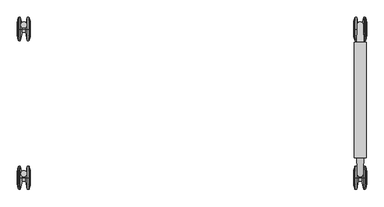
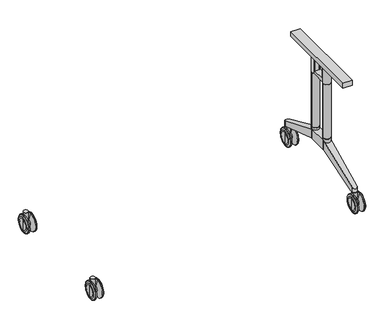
"""IFC4 building model written with IfcOpenShell, lengths in millimetres: furniture geometry."""

from ifc_helpers import new_model, si_unit, point, frame, frame_2d, origin, place, context, project, spatial, polyline, circle_curve, ellipse_curve, trimmed, segment, composite_curve, outline, extrude, source, transform, mapped, element, save
from ifc_brep_helpers import plane_surface, cylinder_surface, revolved_surface, advanced_brep


def furniture_df3bc406(model_context):
    return source(origin(), model_context, "Body", "SolidModel", [
        advanced_brep(
        [(752.500346, 204.1135107, 49.9999988), (752.500346, 204.1135107, 19.8683152), (752.500346, 204.1135107, 80.1316828), (697.5003238, 204.1135107, 19.8683152), (697.5003238, 204.1135107, 49.9999988), (697.5003238, 204.1135107, 80.1316828), (701.8165382, 204.1135107, 2.051318), (699.0398166, 204.1135107, 10.381507), (699.0398166, 204.1135107, 89.6184911), (701.8165382, 204.1135107, 97.9486801), (709.500318, 204.1135107, -1.2e-06), (704.6625889, 204.1135107, -1.2e-06), (704.6625889, 204.1135107, 99.9999992), (709.500318, 204.1135107, 99.9999992), (717.5003021, 204.1135107, 35.0000003), (717.5003021, 204.1135107, 64.9999978), (732.5003676, 204.1135107, 35.0000003), (732.5003676, 204.1135107, 64.9999978), (740.5003517, 204.1135107, -1.2e-06), (740.5003517, 204.1135107, 99.9999992), (745.3380808, 204.1135107, -1.2e-06), (745.3380808, 204.1135107, 99.9999992), (750.9608532, 204.1135107, 10.381507), (748.1841316, 204.1135107, 2.051318), (748.1841316, 204.1135107, 97.9486801), (750.9608532, 204.1135107, 89.6184911)],
        [
            (0, 1),
            (1, 2, circle_curve(frame((752.500346, 204.1135107, 49.999999), z_axis=(1.0, 0.0, 0.0), x_axis=(0.0, 0.0, 1.0)), 30.1316838)),
            (2, 0),
            (2, 1, circle_curve(frame((752.500346, 204.1135107, 49.999999), z_axis=(1.0, 0.0, 0.0), x_axis=(0.0, 0.0, 1.0)), 30.1316838)),
            (3, 4),
            (4, 5),
            (5, 3, circle_curve(frame((697.5003238, 204.1135107, 49.999999), z_axis=(-1.0, 0.0, 0.0), x_axis=(0.0, 0.0, 1.0)), 30.1316838)),
            (3, 5, circle_curve(frame((697.5003238, 204.1135107, 49.999999), z_axis=(-1.0, 0.0, 0.0), x_axis=(0.0, 0.0, 1.0)), 30.1316838)),
            (6, 7),
            (7, 8, circle_curve(frame((699.0398166, 204.1135107, 49.999999), z_axis=(1.0, 0.0, 0.0), x_axis=(0.0, 0.0, 1.0)), 39.618492)),
            (8, 9),
            (9, 6, circle_curve(frame((701.8165382, 204.1135107, 49.999999), z_axis=(-1.0, 0.0, 0.0), x_axis=(0.0, 0.0, 1.0)), 47.948681)),
            (8, 7, circle_curve(frame((699.0398166, 204.1135107, 49.999999), z_axis=(1.0, 0.0, 0.0), x_axis=(0.0, 0.0, 1.0)), 39.618492)),
            (6, 9, circle_curve(frame((701.8165382, 204.1135107, 49.999999), z_axis=(-1.0, 0.0, 0.0), x_axis=(0.0, 0.0, 1.0)), 47.948681)),
            (10, 11),
            (11, 12, circle_curve(frame((704.6625889, 204.1135107, 49.999999), z_axis=(1.0, 0.0, 0.0), x_axis=(0.0, 0.0, 1.0)), 50.0000002)),
            (12, 13),
            (13, 10, circle_curve(frame((709.500318, 204.1135107, 49.999999), z_axis=(-1.0, 0.0, 0.0), x_axis=(0.0, 0.0, 1.0)), 50.0000002)),
            (12, 11, circle_curve(frame((704.6625889, 204.1135107, 49.999999), z_axis=(1.0, 0.0, 0.0), x_axis=(0.0, 0.0, 1.0)), 50.0000002)),
            (10, 13, circle_curve(frame((709.500318, 204.1135107, 49.999999), z_axis=(-1.0, 0.0, 0.0), x_axis=(0.0, 0.0, 1.0)), 50.0000002)),
            (14, 10),
            (13, 15),
            (15, 14, circle_curve(frame((717.5003021, 204.1135107, 49.999999), z_axis=(-1.0, 0.0, 0.0), x_axis=(0.0, 0.0, 1.0)), 14.9999987)),
            (14, 15, circle_curve(frame((717.5003021, 204.1135107, 49.999999), z_axis=(-1.0, 0.0, 0.0), x_axis=(0.0, 0.0, 1.0)), 14.9999987)),
            (16, 14),
            (15, 17),
            (17, 16, circle_curve(frame((732.5003676, 204.1135107, 49.999999), z_axis=(-1.0, 0.0, 0.0), x_axis=(0.0, 0.0, 1.0)), 14.9999987)),
            (16, 17, circle_curve(frame((732.5003676, 204.1135107, 49.999999), z_axis=(-1.0, 0.0, 0.0), x_axis=(0.0, 0.0, 1.0)), 14.9999987)),
            (18, 16),
            (17, 19),
            (19, 18, circle_curve(frame((740.5003517, 204.1135107, 49.999999), z_axis=(-1.0, 0.0, 0.0), x_axis=(0.0, 0.0, 1.0)), 50.0000002)),
            (18, 19, circle_curve(frame((740.5003517, 204.1135107, 49.999999), z_axis=(-1.0, 0.0, 0.0), x_axis=(0.0, 0.0, 1.0)), 50.0000002)),
            (20, 18),
            (19, 21),
            (21, 20, circle_curve(frame((745.3380808, 204.1135107, 49.999999), z_axis=(-1.0, 0.0, 0.0), x_axis=(0.0, 0.0, 1.0)), 50.0000002)),
            (20, 21, circle_curve(frame((745.3380808, 204.1135107, 49.999999), z_axis=(-1.0, 0.0, 0.0), x_axis=(0.0, 0.0, 1.0)), 50.0000002)),
            (22, 23),
            (23, 24, circle_curve(frame((748.1841316, 204.1135107, 49.999999), z_axis=(1.0, 0.0, 0.0), x_axis=(0.0, 0.0, 1.0)), 47.948681)),
            (24, 25),
            (25, 22, circle_curve(frame((750.9608532, 204.1135107, 49.999999), z_axis=(-1.0, 0.0, 0.0), x_axis=(0.0, 0.0, 1.0)), 39.618492)),
            (24, 23, circle_curve(frame((748.1841316, 204.1135107, 49.999999), z_axis=(1.0, 0.0, 0.0), x_axis=(0.0, 0.0, 1.0)), 47.948681)),
            (22, 25, circle_curve(frame((750.9608532, 204.1135107, 49.999999), z_axis=(-1.0, 0.0, 0.0), x_axis=(0.0, 0.0, 1.0)), 39.618492)),
            (7, 3, circle_curve(frame((727.5003238, 204.1135107, 19.8683152), z_axis=(0.0, 1.0000000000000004, 0.0), x_axis=(-1.0000000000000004, 0.0, 0.0)), 30.0)),
            (5, 8, circle_curve(frame((727.5003238, 204.1135107, 80.1316828), z_axis=(0.0, 1.0000000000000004, 0.0), x_axis=(-1.0000000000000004, 0.0, 0.0)), 30.0)),
            (11, 6, circle_curve(frame((704.6625889, 204.1135107, 2.9999988), z_axis=(0.0, 1.0000000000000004, 0.0), x_axis=(-1.0000000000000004, 0.0, 0.0)), 3.0)),
            (9, 12, circle_curve(frame((704.6625889, 204.1135107, 96.9999992), z_axis=(0.0, 1.0000000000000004, 0.0), x_axis=(-1.0000000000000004, 0.0, 0.0)), 3.0)),
            (23, 20, circle_curve(frame((745.3380808, 204.1135107, 2.9999988), z_axis=(0.0, 1.0000000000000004, 0.0), x_axis=(-1.0000000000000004, 0.0, 0.0)), 3.0)),
            (21, 24, circle_curve(frame((745.3380808, 204.1135107, 96.9999992), z_axis=(0.0, 1.0000000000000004, 0.0), x_axis=(-1.0000000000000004, 0.0, 0.0)), 3.0)),
            (1, 22, circle_curve(frame((722.500346, 204.1135107, 19.8683152), z_axis=(0.0, 1.0000000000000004, 0.0), x_axis=(-1.0000000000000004, 0.0, 0.0)), 30.0)),
            (25, 2, circle_curve(frame((722.500346, 204.1135107, 80.1316828), z_axis=(0.0, 1.0000000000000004, 0.0), x_axis=(-1.0000000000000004, 0.0, 0.0)), 30.0)),
        ],
        [
            plane_surface(frame((752.500346, 204.1135107, 49.999999), z_axis=(1.0, 0.0, 0.0), x_axis=(0.0, 0.0, 1.0))),
            plane_surface(frame((697.5003238, 204.1135107, 49.999999), z_axis=(-1.0, 0.0, 0.0), x_axis=(0.0, 0.0, 1.0))),
            revolved_surface(polyline([(699.0398166, 204.1135107, 89.6184911), (701.8165382, 204.1135107, 97.9486801)]), (764.0660385, 204.1135107, 49.999999), (1.0000000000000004, 0.0, 0.0)),
            cylinder_surface(frame((764.0660385, 204.1135107, 49.999999), z_axis=(1.0000000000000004, 0.0, 0.0), x_axis=(0.0, 0.0, 1.0)), 50.0000002),
            revolved_surface(polyline([(709.500318, 204.1135107, 99.9999992), (717.5003021, 204.1135107, 64.9999978)]), (764.0660385, 204.1135107, 49.999999), (1.0000000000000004, 0.0, 0.0)),
            cylinder_surface(frame((764.0660385, 204.1135107, 49.999999), z_axis=(1.0000000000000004, 0.0, 0.0), x_axis=(0.0, 0.0, 1.0)), 14.9999987),
            revolved_surface(polyline([(732.5003676, 204.1135107, 64.9999978), (740.5003517, 204.1135107, 99.9999992)]), (764.0660385, 204.1135107, 49.999999), (1.0000000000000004, 0.0, 0.0)),
            revolved_surface(polyline([(748.1841316, 204.1135107, 97.9486801), (750.9608532, 204.1135107, 89.6184911)]), (764.0660385, 204.1135107, 49.999999), (1.0000000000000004, 0.0, 0.0)),
            revolved_surface(trimmed(ellipse_curve(frame((727.5003238, 204.1135107, 80.1316828), z_axis=(0.0, 1.0000000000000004, 0.0), x_axis=(-1.0000000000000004, 0.0, 0.0)), 30.0, 30.0), [point((697.5003238, 204.1135107, 80.1316828))], [point((699.0398166, 204.1135107, 89.6184911))], True, "CARTESIAN"), (764.0660385, 204.1135107, 49.999999), (1.0000000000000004, 0.0, 0.0)),
            revolved_surface(trimmed(ellipse_curve(frame((704.6625889, 204.1135107, 96.9999992), z_axis=(0.0, 1.0000000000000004, 0.0), x_axis=(-1.0000000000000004, 0.0, 0.0)), 3.0, 3.0), [point((701.8165382, 204.1135107, 97.9486801))], [point((704.6625889, 204.1135107, 99.9999992))], True, "CARTESIAN"), (764.0660385, 204.1135107, 49.999999), (1.0000000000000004, 0.0, 0.0)),
            revolved_surface(trimmed(ellipse_curve(frame((745.3380808, 204.1135107, 96.9999992), z_axis=(0.0, 1.0000000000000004, 0.0), x_axis=(-1.0000000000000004, 0.0, 0.0)), 3.0, 3.0), [point((745.3380808, 204.1135107, 99.9999992))], [point((748.1841316, 204.1135107, 97.9486801))], True, "CARTESIAN"), (764.0660385, 204.1135107, 49.999999), (1.0000000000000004, 0.0, 0.0)),
            revolved_surface(trimmed(ellipse_curve(frame((722.500346, 204.1135107, 80.1316828), z_axis=(0.0, 1.0000000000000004, 0.0), x_axis=(-1.0000000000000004, 0.0, 0.0)), 30.0, 30.0), [point((750.9608532, 204.1135107, 89.6184911))], [point((752.500346, 204.1135107, 80.1316828))], True, "CARTESIAN"), (764.0660385, 204.1135107, 49.999999), (1.0000000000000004, 0.0, 0.0)),
        ],
        [
            (0, [[1, 2, 3]]),
            (0, [[-3, 4, -1]]),
            (1, [[5, 6, 7]]),
            (1, [[-6, -5, 8]]),
            (2, [[9, 10, 11, 12]]),
            (2, [[-11, 13, -9, 14]]),
            (3, [[15, 16, 17, 18]]),
            (3, [[-17, 19, -15, 20]]),
            (4, [[21, -18, 22, 23]]),
            (4, [[-22, -20, -21, 24]]),
            (5, [[25, -23, 26, 27]]),
            (5, [[-26, -24, -25, 28]]),
            (6, [[29, -27, 30, 31]]),
            (6, [[-30, -28, -29, 32]]),
            (3, [[33, -31, 34, 35]]),
            (3, [[-34, -32, -33, 36]]),
            (7, [[37, 38, 39, 40]]),
            (7, [[-39, 41, -37, 42]]),
            (8, [[43, -7, 44, -10]]),
            (8, [[-44, -8, -43, -13]]),
            (9, [[45, -12, 46, -16]]),
            (9, [[-46, -14, -45, -19]]),
            (10, [[47, -35, 48, -38]]),
            (10, [[-48, -36, -47, -41]]),
            (11, [[49, -40, 50, -2]]),
            (11, [[-50, -42, -49, -4]]),
        ],
    ),
        extrude(outline(composite_curve([segment(trimmed(circle_curve(frame_2d((725.0003349, 221.5135103)), 13.1), [point((738.1003349, 221.5135103))], [point((711.9003349, 221.5135103))], False, "CARTESIAN"), True, "CONTINUOUS"), segment(trimmed(circle_curve(frame_2d((725.0003349, 221.5135103)), 13.1), [point((711.9003349, 221.5135103))], [point((738.1003349, 221.5135103))], False, "CARTESIAN"), True, "CONTINUOUS")], self_intersect=False)), frame((0.0, 0.0, 50.0), z_axis=(0.0, 0.0, 1.0), x_axis=(1.0, 0.0, 0.0)), (0.0, 0.0, 1.0), 55.0),
        advanced_brep(
        [(697.5003238, -436.9185854, 49.9999992), (697.5003238, -436.9185854, 80.1316828), (697.5003238, -436.9185854, 19.8683152), (752.500346, -436.9185854, 19.8683152), (752.500346, -436.9185854, 80.1316828), (752.500346, -436.9185854, 49.9999992), (748.1841316, -436.9185854, 2.051318), (748.1841316, -436.9185854, 97.9486801), (750.9608532, -436.9185854, 89.6184911), (750.9608532, -436.9185854, 10.381507), (740.5003517, -436.9185854, -1.2e-06), (740.5003517, -436.9185854, 99.9999992), (745.3380808, -436.9185854, 99.9999992), (745.3380808, -436.9185854, -1.2e-06), (732.5003676, -436.9185854, 35.0000003), (732.5003676, -436.9185854, 64.9999978), (717.5003021, -436.9185854, 35.0000003), (717.5003021, -436.9185854, 64.9999978), (709.500318, -436.9185854, -1.2e-06), (709.500318, -436.9185854, 99.9999992), (704.6625889, -436.9185854, -1.2e-06), (704.6625889, -436.9185854, 99.9999992), (699.0398166, -436.9185854, 10.381507), (699.0398166, -436.9185854, 89.6184911), (701.8165382, -436.9185854, 97.9486801), (701.8165382, -436.9185854, 2.051318)],
        [
            (0, 1),
            (1, 2, circle_curve(frame((697.5003238, -436.9185854, 49.999999), z_axis=(-1.0, 0.0, 0.0), x_axis=(0.0, 0.0, 1.0)), 30.1316838)),
            (2, 0),
            (2, 1, circle_curve(frame((697.5003238, -436.9185854, 49.999999), z_axis=(-1.0, 0.0, 0.0), x_axis=(0.0, 0.0, 1.0)), 30.1316838)),
            (3, 4, circle_curve(frame((752.500346, -436.9185854, 49.999999), z_axis=(1.0, 0.0, 0.0), x_axis=(0.0, 0.0, 1.0)), 30.1316838)),
            (4, 5),
            (5, 3),
            (4, 3, circle_curve(frame((752.500346, -436.9185854, 49.999999), z_axis=(1.0, 0.0, 0.0), x_axis=(0.0, 0.0, 1.0)), 30.1316838)),
            (6, 7, circle_curve(frame((748.1841316, -436.9185854, 49.999999), z_axis=(1.0, 0.0, 0.0), x_axis=(0.0, 0.0, 1.0)), 47.948681)),
            (7, 8),
            (8, 9, circle_curve(frame((750.9608532, -436.9185854, 49.999999), z_axis=(-1.0, 0.0, 0.0), x_axis=(0.0, 0.0, 1.0)), 39.618492)),
            (9, 6),
            (7, 6, circle_curve(frame((748.1841316, -436.9185854, 49.999999), z_axis=(1.0, 0.0, 0.0), x_axis=(0.0, 0.0, 1.0)), 47.948681)),
            (9, 8, circle_curve(frame((750.9608532, -436.9185854, 49.999999), z_axis=(-1.0, 0.0, 0.0), x_axis=(0.0, 0.0, 1.0)), 39.618492)),
            (10, 11, circle_curve(frame((740.5003517, -436.9185854, 49.999999), z_axis=(1.0, 0.0, 0.0), x_axis=(0.0, 0.0, 1.0)), 50.0000002)),
            (11, 12),
            (12, 13, circle_curve(frame((745.3380808, -436.9185854, 49.999999), z_axis=(-1.0, 0.0, 0.0), x_axis=(0.0, 0.0, 1.0)), 50.0000002)),
            (13, 10),
            (11, 10, circle_curve(frame((740.5003517, -436.9185854, 49.999999), z_axis=(1.0, 0.0, 0.0), x_axis=(0.0, 0.0, 1.0)), 50.0000002)),
            (13, 12, circle_curve(frame((745.3380808, -436.9185854, 49.999999), z_axis=(-1.0, 0.0, 0.0), x_axis=(0.0, 0.0, 1.0)), 50.0000002)),
            (14, 15, circle_curve(frame((732.5003676, -436.9185854, 49.999999), z_axis=(1.0, 0.0, 0.0), x_axis=(0.0, 0.0, 1.0)), 14.9999987)),
            (15, 11),
            (10, 14),
            (15, 14, circle_curve(frame((732.5003676, -436.9185854, 49.999999), z_axis=(1.0, 0.0, 0.0), x_axis=(0.0, 0.0, 1.0)), 14.9999987)),
            (16, 17, circle_curve(frame((717.5003021, -436.9185854, 49.999999), z_axis=(1.0, 0.0, 0.0), x_axis=(0.0, 0.0, 1.0)), 14.9999987)),
            (17, 15),
            (14, 16),
            (17, 16, circle_curve(frame((717.5003021, -436.9185854, 49.999999), z_axis=(1.0, 0.0, 0.0), x_axis=(0.0, 0.0, 1.0)), 14.9999987)),
            (18, 19, circle_curve(frame((709.500318, -436.9185854, 49.999999), z_axis=(1.0, 0.0, 0.0), x_axis=(0.0, 0.0, 1.0)), 50.0000002)),
            (19, 17),
            (16, 18),
            (19, 18, circle_curve(frame((709.500318, -436.9185854, 49.999999), z_axis=(1.0, 0.0, 0.0), x_axis=(0.0, 0.0, 1.0)), 50.0000002)),
            (20, 21, circle_curve(frame((704.6625889, -436.9185854, 49.999999), z_axis=(1.0, 0.0, 0.0), x_axis=(0.0, 0.0, 1.0)), 50.0000002)),
            (21, 19),
            (18, 20),
            (21, 20, circle_curve(frame((704.6625889, -436.9185854, 49.999999), z_axis=(1.0, 0.0, 0.0), x_axis=(0.0, 0.0, 1.0)), 50.0000002)),
            (22, 23, circle_curve(frame((699.0398166, -436.9185854, 49.999999), z_axis=(1.0, 0.0, 0.0), x_axis=(0.0, 0.0, 1.0)), 39.618492)),
            (23, 24),
            (24, 25, circle_curve(frame((701.8165382, -436.9185854, 49.999999), z_axis=(-1.0, 0.0, 0.0), x_axis=(0.0, 0.0, 1.0)), 47.948681)),
            (25, 22),
            (23, 22, circle_curve(frame((699.0398166, -436.9185854, 49.999999), z_axis=(1.0, 0.0, 0.0), x_axis=(0.0, 0.0, 1.0)), 39.618492)),
            (25, 24, circle_curve(frame((701.8165382, -436.9185854, 49.999999), z_axis=(-1.0, 0.0, 0.0), x_axis=(0.0, 0.0, 1.0)), 47.948681)),
            (8, 4, circle_curve(frame((722.500346, -436.9185854, 80.1316828), z_axis=(0.0, 1.0, 0.0), x_axis=(1.0, 0.0, 0.0)), 30.0)),
            (3, 9, circle_curve(frame((722.500346, -436.9185854, 19.8683152), z_axis=(0.0, 1.0, 0.0), x_axis=(1.0, 0.0, 0.0)), 30.0)),
            (12, 7, circle_curve(frame((745.3380808, -436.9185854, 96.9999992), z_axis=(0.0, 1.0, 0.0), x_axis=(1.0, 0.0, 0.0)), 3.0)),
            (6, 13, circle_curve(frame((745.3380808, -436.9185854, 2.9999988), z_axis=(0.0, 1.0, 0.0), x_axis=(1.0, 0.0, 0.0)), 3.0)),
            (24, 21, circle_curve(frame((704.6625889, -436.9185854, 96.9999992), z_axis=(0.0, 1.0, 0.0), x_axis=(1.0, 0.0, 0.0)), 3.0)),
            (20, 25, circle_curve(frame((704.6625889, -436.9185854, 2.9999988), z_axis=(0.0, 1.0, 0.0), x_axis=(1.0, 0.0, 0.0)), 3.0)),
            (1, 23, circle_curve(frame((727.5003238, -436.9185854, 80.1316828), z_axis=(0.0, 1.0, 0.0), x_axis=(1.0, 0.0, 0.0)), 30.0)),
            (22, 2, circle_curve(frame((727.5003238, -436.9185854, 19.8683152), z_axis=(0.0, 1.0, 0.0), x_axis=(1.0, 0.0, 0.0)), 30.0)),
        ],
        [
            plane_surface(frame((697.5003238, -436.9185854, 49.999999), z_axis=(-1.0, 0.0, 0.0), x_axis=(0.0, 0.0, 1.0))),
            plane_surface(frame((752.500346, -436.9185854, 49.999999), z_axis=(1.0, 0.0, 0.0), x_axis=(0.0, 0.0, 1.0))),
            revolved_surface(polyline([(750.9608532, -436.9185854, 89.6184911), (748.1841316, -436.9185854, 97.9486801)]), (685.9346312, -436.9185854, 49.999999), (-1.0, 0.0, 0.0)),
            cylinder_surface(frame((685.9346312, -436.9185854, 49.999999), z_axis=(-1.0, 0.0, 0.0), x_axis=(0.0, 0.0, 1.0)), 50.0000002),
            revolved_surface(polyline([(740.5003517, -436.9185854, 99.9999992), (732.5003676, -436.9185854, 64.9999978)]), (685.9346312, -436.9185854, 49.999999), (-1.0, 0.0, 0.0)),
            cylinder_surface(frame((685.9346312, -436.9185854, 49.999999), z_axis=(-1.0, 0.0, 0.0), x_axis=(0.0, 0.0, 1.0)), 14.9999987),
            revolved_surface(polyline([(717.5003021, -436.9185854, 64.9999978), (709.500318, -436.9185854, 99.9999992)]), (685.9346312, -436.9185854, 49.999999), (-1.0, 0.0, 0.0)),
            revolved_surface(polyline([(701.8165382, -436.9185854, 97.9486801), (699.0398166, -436.9185854, 89.6184911)]), (685.9346312, -436.9185854, 49.999999), (-1.0, 0.0, 0.0)),
            revolved_surface(trimmed(ellipse_curve(frame((722.500346, -436.9185854, 80.1316828), z_axis=(0.0, -1.0, 0.0), x_axis=(1.0, 0.0, 0.0)), 30.0, 30.0), [point((752.500346, -436.9185854, 80.1316828))], [point((750.9608532, -436.9185854, 89.6184911))], True, "CARTESIAN"), (685.9346312, -436.9185854, 49.999999), (-1.0, 0.0, 0.0)),
            revolved_surface(trimmed(ellipse_curve(frame((745.3380808, -436.9185854, 96.9999992), z_axis=(0.0, -1.0, 0.0), x_axis=(1.0, 0.0, 0.0)), 3.0, 3.0), [point((748.1841316, -436.9185854, 97.9486801))], [point((745.3380808, -436.9185854, 99.9999992))], True, "CARTESIAN"), (685.9346312, -436.9185854, 49.999999), (-1.0, 0.0, 0.0)),
            revolved_surface(trimmed(ellipse_curve(frame((704.6625889, -436.9185854, 96.9999992), z_axis=(0.0, -1.0, 0.0), x_axis=(1.0, 0.0, 0.0)), 3.0, 3.0), [point((704.6625889, -436.9185854, 99.9999992))], [point((701.8165382, -436.9185854, 97.9486801))], True, "CARTESIAN"), (685.9346312, -436.9185854, 49.999999), (-1.0, 0.0, 0.0)),
            revolved_surface(trimmed(ellipse_curve(frame((727.5003238, -436.9185854, 80.1316828), z_axis=(0.0, -1.0, 0.0), x_axis=(1.0, 0.0, 0.0)), 30.0, 30.0), [point((699.0398166, -436.9185854, 89.6184911))], [point((697.5003238, -436.9185854, 80.1316828))], True, "CARTESIAN"), (685.9346312, -436.9185854, 49.999999), (-1.0, 0.0, 0.0)),
        ],
        [
            (0, [[1, 2, 3]]),
            (0, [[-3, 4, -1]]),
            (1, [[5, 6, 7]]),
            (1, [[8, -7, -6]]),
            (2, [[9, 10, 11, 12]]),
            (2, [[13, -12, 14, -10]]),
            (3, [[15, 16, 17, 18]]),
            (3, [[19, -18, 20, -16]]),
            (4, [[21, 22, -15, 23]]),
            (4, [[24, -23, -19, -22]]),
            (5, [[25, 26, -21, 27]]),
            (5, [[28, -27, -24, -26]]),
            (6, [[29, 30, -25, 31]]),
            (6, [[32, -31, -28, -30]]),
            (3, [[33, 34, -29, 35]]),
            (3, [[36, -35, -32, -34]]),
            (7, [[37, 38, 39, 40]]),
            (7, [[41, -40, 42, -38]]),
            (8, [[-11, 43, -5, 44]]),
            (8, [[-14, -44, -8, -43]]),
            (9, [[-17, 45, -9, 46]]),
            (9, [[-20, -46, -13, -45]]),
            (10, [[-39, 47, -33, 48]]),
            (10, [[-42, -48, -36, -47]]),
            (11, [[-2, 49, -37, 50]]),
            (11, [[-4, -50, -41, -49]]),
        ],
    ),
        extrude(outline(composite_curve([segment(trimmed(circle_curve(frame_2d((725.0003349, -419.5185858)), 13.1), [point((711.9003349, -419.5185858))], [point((738.1003349, -419.5185858))], False, "CARTESIAN"), True, "CONTINUOUS"), segment(trimmed(circle_curve(frame_2d((725.0003349, -419.5185858)), 13.1), [point((738.1003349, -419.5185858))], [point((711.9003349, -419.5185858))], False, "CARTESIAN"), True, "CONTINUOUS")], self_intersect=False)), frame((0.0, 0.0, 50.0), z_axis=(0.0, 0.0, 1.0), x_axis=(1.0, 0.0, 0.0)), (0.0, 0.0, 1.0), 55.0),
        extrude(outline(composite_curve([segment(trimmed(circle_curve(frame_2d((725.0, -154.0488451)), 20.0), [point((705.0, -154.0488451))], [point((745.0, -154.0488451))], False, "CARTESIAN"), True, "CONTINUOUS"), segment(trimmed(circle_curve(frame_2d((725.0, -154.0488451)), 20.0), [point((745.0, -154.0488451))], [point((705.0, -154.0488451))], False, "CARTESIAN"), True, "CONTINUOUS")], self_intersect=False)), frame((0.0, 0.0, 193.3080085), z_axis=(0.0, 0.0, 1.0), x_axis=(1.0, 0.0, 0.0)), (0.0, 0.0, 1.0), 68.8536941),
        extrude(outline(composite_curve([segment(trimmed(circle_curve(frame_2d((725.0, -44.0488461)), 20.0), [point((705.0, -44.0488461))], [point((745.0, -44.0488461))], False, "CARTESIAN"), True, "CONTINUOUS"), segment(trimmed(circle_curve(frame_2d((725.0, -44.0488461)), 20.0), [point((745.0, -44.0488461))], [point((705.0, -44.0488461))], False, "CARTESIAN"), True, "CONTINUOUS")], self_intersect=False)), frame((0.0, 0.0, 193.3080085), z_axis=(0.0, 0.0, 1.0), x_axis=(1.0, 0.0, 0.0)), (0.0, 0.0, 1.0), 68.8536941),
        extrude(outline(composite_curve([segment(trimmed(circle_curve(frame_2d((725.0, -154.0488451)), 20.0), [point((705.0, -154.0488451))], [point((745.0, -154.0488451))], False, "CARTESIAN"), True, "CONTINUOUS"), segment(trimmed(circle_curve(frame_2d((725.0, -154.0488451)), 20.0), [point((745.0, -154.0488451))], [point((705.0, -154.0488451))], False, "CARTESIAN"), True, "CONTINUOUS")], self_intersect=False)), frame((0.0, 0.0, 262.1617027), z_axis=(0.0, 0.0, 1.0), x_axis=(1.0, 0.0, 0.0)), (0.0, 0.0, 1.0), 317.8382973),
        extrude(outline(composite_curve([segment(trimmed(circle_curve(frame_2d((725.0, -44.0488461)), 20.0), [point((705.0, -44.0488461))], [point((745.0, -44.0488461))], False, "CARTESIAN"), True, "CONTINUOUS"), segment(trimmed(circle_curve(frame_2d((725.0, -44.0488461)), 20.0), [point((745.0, -44.0488461))], [point((705.0, -44.0488461))], False, "CARTESIAN"), True, "CONTINUOUS")], self_intersect=False)), frame((0.0, 0.0, 262.1617027), z_axis=(0.0, 0.0, 1.0), x_axis=(1.0, 0.0, 0.0)), (0.0, 0.0, 1.0), 317.8382973),
        extrude(outline(polyline([(751.0000118, 147.9511612), (751.0000118, -352.0488426), (698.9999882, -352.0488426), (698.9999882, 147.9511612), (751.0000118, 147.9511612)])), frame((0.0, 0.0, 676.0000168), z_axis=(0.0, 0.0, 1.0), x_axis=(1.0, 0.0, 0.0)), (0.0, 0.0, 1.0), 27.9999624),
        advanced_brep(
        [(710.0001238, -140.8200278, 676.0000168), (740.0001095, -140.8201331, 676.0000168), (740.0001095, -134.0488456, 676.0000168), (710.0001238, -134.0488456, 676.0000168), (740.0001095, -57.2775581, 676.0000168), (710.0001238, -57.2776634, 676.0000168), (710.0001238, -64.0488456, 676.0000168), (740.0001095, -64.0488456, 676.0000168), (710.0001238, -57.2776634, 580.0), (740.0001095, -57.2775581, 580.0), (740.0001095, -140.8201331, 580.0), (710.0001238, -140.8200278, 580.0), (710.0001238, -134.0488456, 598.0000176), (710.0001238, -64.0488456, 598.0000176), (740.0001095, -64.0488456, 598.0000176), (740.0001095, -134.0488456, 598.0000176)],
        [
            (0, 1, circle_curve(frame((725.0000702, -154.0488451, 676.0000168), z_axis=(0.0, 0.0, 1.0), x_axis=(1.0, 0.0, 0.0)), 20.0)),
            (1, 2),
            (2, 3),
            (3, 0),
            (4, 5, circle_curve(frame((725.0000702, -44.0488461, 676.0000168), z_axis=(0.0, 0.0, 1.0), x_axis=(1.0, 0.0, 0.0)), 20.0)),
            (5, 6),
            (6, 7),
            (7, 4),
            (8, 9, circle_curve(frame((725.0000702, -44.0488461, 580.0), z_axis=(0.0, 0.0, -1.0), x_axis=(1.0, 0.0, 0.0)), 20.0)),
            (9, 10),
            (10, 11, circle_curve(frame((725.0000702, -154.0488451, 580.0), z_axis=(0.0, 0.0, -1.0), x_axis=(1.0, 0.0, 0.0)), 20.0)),
            (11, 8),
            (11, 0),
            (3, 12),
            (12, 13),
            (13, 6),
            (5, 8),
            (10, 1),
            (9, 4),
            (7, 14),
            (14, 15),
            (15, 2),
            (15, 12),
            (14, 13),
        ],
        [
            plane_surface(frame((710.0001238, -140.8200278, 676.0000168), z_axis=(0.0, 0.0, 1.0), x_axis=(0.0, -1.0, 0.0))),
            plane_surface(frame((710.0001238, -140.8200278, 580.0), z_axis=(0.0, 0.0, -1.0), x_axis=(0.0, 1.0, 0.0))),
            plane_surface(frame((710.0001238, -57.2776634, 676.0000168), z_axis=(-1.0, 0.0, 0.0), x_axis=(0.0, 0.0, -1.0))),
            cylinder_surface(frame((725.0000702, -154.0488451, 580.0), z_axis=(0.0, 0.0, 1.0), x_axis=(1.0, 0.0, 0.0)), 20.0),
            plane_surface(frame((740.0001095, -140.8201331, 676.0000168), z_axis=(1.0, 0.0, 0.0), x_axis=(0.0, 0.0, -1.0))),
            cylinder_surface(frame((725.0000702, -44.0488461, 580.0), z_axis=(0.0, 0.0, 1.0), x_axis=(1.0, 0.0, 0.0)), 20.0),
            plane_surface(frame((740.0001095, -134.0488456, 676.0000168), z_axis=(0.0, 1.0, 0.0), x_axis=(-1.0, 0.0, 0.0))),
            plane_surface(frame((740.0001095, -134.0488456, 598.0000176), z_axis=(0.0, 0.0, 1.0), x_axis=(-1.0, 0.0, 0.0))),
            plane_surface(frame((740.0001095, -64.0488456, 598.0000176), z_axis=(0.0, -1.0, 0.0), x_axis=(-1.0, 0.0, 0.0))),
        ],
        [
            (0, [[1, 2, 3, 4]]),
            (0, [[5, 6, 7, 8]]),
            (1, [[9, 10, 11, 12]]),
            (2, [[-12, 13, -4, 14, 15, 16, -6, 17]]),
            (3, [[-1, -13, -11, 18]]),
            (4, [[-10, 19, -8, 20, 21, 22, -2, -18]]),
            (5, [[-5, -19, -9, -17]]),
            (6, [[23, -14, -3, -22]]),
            (7, [[-23, -21, 24, -15]]),
            (8, [[-24, -20, -7, -16]]),
        ],
    ),
        advanced_brep(
        [(738.4728951, 208.4135103, 105.0), (711.527103, 208.4135103, 105.0), (711.8737706, 221.8222582, 105.0), (738.1262294, 221.8222564, 105.0), (711.8737706, 221.8222582, 133.4205559), (704.9999818, -44.0488461, 248.3080085), (744.9999818, -44.0488461, 248.3080085), (738.1262294, 221.8222564, 133.4205567), (744.7999588, -36.3121196, 193.3080085), (705.2000059, -36.3121196, 193.3080085), (738.1262294, -419.9199475, 133.4205567), (744.9999818, -154.0488451, 248.3080085), (704.9999818, -154.0488451, 248.3080085), (711.8737706, -419.9199493, 133.4205559), (738.1262294, -419.9199475, 105.0), (738.4728951, -406.5112014, 105.0), (744.7999588, -161.7855715, 193.3080085), (744.9999818, -154.0488451, 193.3080085), (711.8737706, -419.9199493, 105.0), (704.9999818, -154.0488451, 193.3080085), (705.2000059, -161.7855715, 193.3080085), (711.527103, -406.5112014, 105.0), (704.9999818, -44.0488461, 193.3080085), (744.9999818, -44.0488461, 193.3080085)],
        [
            (0, 1),
            (1, 2),
            (2, 3, circle_curve(frame((725.0, 221.4828948, 105.0), z_axis=(0.0, 0.0, -1.0), x_axis=(1.0, 0.0, 0.0)), 13.1306156)),
            (3, 0),
            (4, 5),
            (5, 6),
            (6, 7),
            (7, 4, ellipse_curve(frame((725.0, 221.4828948, 133.5672007), z_axis=(0.0, 0.3966672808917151, 0.9179624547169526), x_axis=(0.0, 0.9179624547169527, -0.39666728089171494)), 14.3040878, 13.1306156)),
            (0, 8),
            (8, 9),
            (9, 1),
            (10, 11),
            (11, 12),
            (12, 13),
            (13, 10, ellipse_curve(frame((725.0, -419.5805859, 133.5672007), z_axis=(0.0, -0.3966672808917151, 0.9179624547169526), x_axis=(0.0, -0.9179624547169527, -0.39666728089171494)), 14.3040878, 13.1306156)),
            (10, 14),
            (14, 15),
            (15, 16),
            (16, 17),
            (17, 11),
            (13, 18),
            (18, 14, circle_curve(frame((725.0, -419.5805859, 105.0), z_axis=(0.0, 0.0, 1.0), x_axis=(1.0, 0.0, 0.0)), 13.1306156)),
            (12, 19),
            (19, 20),
            (20, 21),
            (21, 18),
            (4, 2),
            (9, 22),
            (22, 5),
            (7, 3),
            (6, 23),
            (23, 8),
            (21, 15),
            (20, 16),
            (11, 6),
            (5, 12),
            (22, 19),
            (17, 23),
        ],
        [
            plane_surface(frame((746.3794585, 208.4135103, 105.0), z_axis=(0.0, 0.0, -1.0), x_axis=(-1.0, 0.0, 0.0))),
            plane_surface(frame((746.3794585, 235.9511544, 127.3152182), z_axis=(0.0, 0.3966672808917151, 0.9179624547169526), x_axis=(-1.0, 0.0, 0.0))),
            plane_surface(frame((746.3794585, -36.3121196, 193.3080085), z_axis=(0.0, -0.3394229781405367, -0.9406338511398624), x_axis=(-1.0, 0.0, 0.0))),
            plane_surface(frame((746.3794585, -154.0488451, 248.3080085), z_axis=(0.0, -0.3966672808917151, 0.9179624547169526), x_axis=(-1.0, 0.0, 0.0))),
            plane_surface(frame((744.9999818, -154.0488451, 249.0000084), z_axis=(0.9996659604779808, -0.025845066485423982, 0.0), x_axis=(0.0, 0.0, -1.0))),
            cylinder_surface(frame((725.0, -419.5805859, 90.0000025), z_axis=(0.0, 0.0, -1.0), x_axis=(1.0, 0.0, 0.0)), 13.1306156),
            plane_surface(frame((711.8737706, -419.9199493, 249.0000084), z_axis=(-0.9996659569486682, -0.025845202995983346, 0.0), x_axis=(0.0, 0.0, -1.0))),
            plane_surface(frame((704.9999818, -44.0488461, 249.0000084), z_axis=(-0.9996659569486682, 0.025845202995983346, 0.0), x_axis=(0.0, 0.0, -1.0))),
            cylinder_surface(frame((725.0, 221.4828948, 0.0), z_axis=(0.0, 0.0, -1.0), x_axis=(1.0, 0.0, 0.0)), 13.1306156),
            plane_surface(frame((738.1262294, 221.8222564, 249.0000084), z_axis=(0.9996659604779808, 0.025845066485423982, 0.0), x_axis=(0.0, 0.0, -1.0))),
            plane_surface(frame((746.3794585, -434.0488456, 105.0), z_axis=(0.0, 0.0, -1.0), x_axis=(-1.0, 0.0, 0.0))),
            plane_surface(frame((746.3794585, -406.5112014, 105.0), z_axis=(0.0, 0.3394229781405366, -0.9406338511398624), x_axis=(-1.0, 0.0, 0.0))),
            plane_surface(frame((744.9999818, -44.0488461, 248.3080085), z_axis=(0.0, 0.0, 1.0), x_axis=(0.0, 1.0, 0.0))),
            plane_surface(frame((704.9999818, -44.0488461, 248.3080085), z_axis=(-1.0, 0.0, 0.0), x_axis=(0.0, 0.0, -1.0))),
            plane_surface(frame((744.9999818, -154.0488451, 248.3080085), z_axis=(1.0, 0.0, 0.0), x_axis=(0.0, 0.0, -1.0))),
            plane_surface(frame((746.3794585, -44.0488461, 193.3080085), z_axis=(0.0, 0.0, -1.0), x_axis=(-1.0, 0.0, 0.0))),
        ],
        [
            (0, [[1, 2, 3, 4]]),
            (1, [[5, 6, 7, 8]]),
            (2, [[-1, 9, 10, 11]]),
            (3, [[12, 13, 14, 15]]),
            (4, [[16, 17, 18, 19, 20, -12]]),
            (5, [[-16, -15, 21, 22]]),
            (6, [[-21, -14, 23, 24, 25, 26]]),
            (7, [[27, -2, -11, 28, 29, -5]]),
            (8, [[-27, -8, 30, -3]]),
            (9, [[-30, -7, 31, 32, -9, -4]]),
            (10, [[33, -17, -22, -26]]),
            (11, [[-33, -25, 34, -18]]),
            (12, [[35, -6, 36, -13]]),
            (13, [[-36, -29, 37, -23]]),
            (14, [[-35, -20, 38, -31]]),
            (15, [[-10, -32, -38, -19, -34, -24, -37, -28]]),
        ],
    ),
        advanced_brep(
        [(-697.499654, 204.1135107, 49.9999988), (-697.499654, 204.1135107, 19.8683152), (-697.499654, 204.1135107, 80.1316828), (-752.4996762, 204.1135107, 19.8683152), (-752.4996762, 204.1135107, 49.9999988), (-752.4996762, 204.1135107, 80.1316828), (-748.1834618, 204.1135107, 2.051318), (-750.9601834, 204.1135107, 10.381507), (-750.9601834, 204.1135107, 89.6184911), (-748.1834618, 204.1135107, 97.9486801), (-740.499682, 204.1135107, -1.2e-06), (-745.3374111, 204.1135107, -1.2e-06), (-745.3374111, 204.1135107, 99.9999992), (-740.499682, 204.1135107, 99.9999992), (-732.4996979, 204.1135107, 35.0000003), (-732.4996979, 204.1135107, 64.9999978), (-717.4996324, 204.1135107, 35.0000003), (-717.4996324, 204.1135107, 64.9999978), (-709.4996483, 204.1135107, -1.2e-06), (-709.4996483, 204.1135107, 99.9999992), (-704.6619192, 204.1135107, -1.2e-06), (-704.6619192, 204.1135107, 99.9999992), (-699.0391468, 204.1135107, 10.381507), (-701.8158684, 204.1135107, 2.051318), (-701.8158684, 204.1135107, 97.9486801), (-699.0391468, 204.1135107, 89.6184911)],
        [
            (0, 1),
            (1, 2, circle_curve(frame((-697.499654, 204.1135107, 49.999999), z_axis=(1.0, 0.0, 0.0), x_axis=(0.0, 0.0, 1.0)), 30.1316838)),
            (2, 0),
            (2, 1, circle_curve(frame((-697.499654, 204.1135107, 49.999999), z_axis=(1.0, 0.0, 0.0), x_axis=(0.0, 0.0, 1.0)), 30.1316838)),
            (3, 4),
            (4, 5),
            (5, 3, circle_curve(frame((-752.4996762, 204.1135107, 49.999999), z_axis=(-1.0, 0.0, 0.0), x_axis=(0.0, 0.0, 1.0)), 30.1316838)),
            (3, 5, circle_curve(frame((-752.4996762, 204.1135107, 49.999999), z_axis=(-1.0, 0.0, 0.0), x_axis=(0.0, 0.0, 1.0)), 30.1316838)),
            (6, 7),
            (7, 8, circle_curve(frame((-750.9601834, 204.1135107, 49.999999), z_axis=(1.0, 0.0, 0.0), x_axis=(0.0, 0.0, 1.0)), 39.618492)),
            (8, 9),
            (9, 6, circle_curve(frame((-748.1834618, 204.1135107, 49.999999), z_axis=(-1.0, 0.0, 0.0), x_axis=(0.0, 0.0, 1.0)), 47.948681)),
            (8, 7, circle_curve(frame((-750.9601834, 204.1135107, 49.999999), z_axis=(1.0, 0.0, 0.0), x_axis=(0.0, 0.0, 1.0)), 39.618492)),
            (6, 9, circle_curve(frame((-748.1834618, 204.1135107, 49.999999), z_axis=(-1.0, 0.0, 0.0), x_axis=(0.0, 0.0, 1.0)), 47.948681)),
            (10, 11),
            (11, 12, circle_curve(frame((-745.3374111, 204.1135107, 49.999999), z_axis=(1.0, 0.0, 0.0), x_axis=(0.0, 0.0, 1.0)), 50.0000002)),
            (12, 13),
            (13, 10, circle_curve(frame((-740.499682, 204.1135107, 49.999999), z_axis=(-1.0, 0.0, 0.0), x_axis=(0.0, 0.0, 1.0)), 50.0000002)),
            (12, 11, circle_curve(frame((-745.3374111, 204.1135107, 49.999999), z_axis=(1.0, 0.0, 0.0), x_axis=(0.0, 0.0, 1.0)), 50.0000002)),
            (10, 13, circle_curve(frame((-740.499682, 204.1135107, 49.999999), z_axis=(-1.0, 0.0, 0.0), x_axis=(0.0, 0.0, 1.0)), 50.0000002)),
            (14, 10),
            (13, 15),
            (15, 14, circle_curve(frame((-732.4996979, 204.1135107, 49.999999), z_axis=(-1.0, 0.0, 0.0), x_axis=(0.0, 0.0, 1.0)), 14.9999987)),
            (14, 15, circle_curve(frame((-732.4996979, 204.1135107, 49.999999), z_axis=(-1.0, 0.0, 0.0), x_axis=(0.0, 0.0, 1.0)), 14.9999987)),
            (16, 14),
            (15, 17),
            (17, 16, circle_curve(frame((-717.4996324, 204.1135107, 49.999999), z_axis=(-1.0, 0.0, 0.0), x_axis=(0.0, 0.0, 1.0)), 14.9999987)),
            (16, 17, circle_curve(frame((-717.4996324, 204.1135107, 49.999999), z_axis=(-1.0, 0.0, 0.0), x_axis=(0.0, 0.0, 1.0)), 14.9999987)),
            (18, 16),
            (17, 19),
            (19, 18, circle_curve(frame((-709.4996483, 204.1135107, 49.999999), z_axis=(-1.0, 0.0, 0.0), x_axis=(0.0, 0.0, 1.0)), 50.0000002)),
            (18, 19, circle_curve(frame((-709.4996483, 204.1135107, 49.999999), z_axis=(-1.0, 0.0, 0.0), x_axis=(0.0, 0.0, 1.0)), 50.0000002)),
            (20, 18),
            (19, 21),
            (21, 20, circle_curve(frame((-704.6619192, 204.1135107, 49.999999), z_axis=(-1.0, 0.0, 0.0), x_axis=(0.0, 0.0, 1.0)), 50.0000002)),
            (20, 21, circle_curve(frame((-704.6619192, 204.1135107, 49.999999), z_axis=(-1.0, 0.0, 0.0), x_axis=(0.0, 0.0, 1.0)), 50.0000002)),
            (22, 23),
            (23, 24, circle_curve(frame((-701.8158684, 204.1135107, 49.999999), z_axis=(1.0, 0.0, 0.0), x_axis=(0.0, 0.0, 1.0)), 47.948681)),
            (24, 25),
            (25, 22, circle_curve(frame((-699.0391468, 204.1135107, 49.999999), z_axis=(-1.0, 0.0, 0.0), x_axis=(0.0, 0.0, 1.0)), 39.618492)),
            (24, 23, circle_curve(frame((-701.8158684, 204.1135107, 49.999999), z_axis=(1.0, 0.0, 0.0), x_axis=(0.0, 0.0, 1.0)), 47.948681)),
            (22, 25, circle_curve(frame((-699.0391468, 204.1135107, 49.999999), z_axis=(-1.0, 0.0, 0.0), x_axis=(0.0, 0.0, 1.0)), 39.618492)),
            (7, 3, circle_curve(frame((-722.4996762, 204.1135107, 19.8683152), z_axis=(0.0, 1.0000000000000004, 0.0), x_axis=(-1.0000000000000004, 0.0, 0.0)), 30.0)),
            (5, 8, circle_curve(frame((-722.4996762, 204.1135107, 80.1316828), z_axis=(0.0, 1.0000000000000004, 0.0), x_axis=(-1.0000000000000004, 0.0, 0.0)), 30.0)),
            (11, 6, circle_curve(frame((-745.3374111, 204.1135107, 2.9999988), z_axis=(0.0, 1.0000000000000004, 0.0), x_axis=(-1.0000000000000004, 0.0, 0.0)), 3.0)),
            (9, 12, circle_curve(frame((-745.3374111, 204.1135107, 96.9999992), z_axis=(0.0, 1.0000000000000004, 0.0), x_axis=(-1.0000000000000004, 0.0, 0.0)), 3.0)),
            (23, 20, circle_curve(frame((-704.6619192, 204.1135107, 2.9999988), z_axis=(0.0, 1.0000000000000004, 0.0), x_axis=(-1.0000000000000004, 0.0, 0.0)), 3.0)),
            (21, 24, circle_curve(frame((-704.6619192, 204.1135107, 96.9999992), z_axis=(0.0, 1.0000000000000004, 0.0), x_axis=(-1.0000000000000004, 0.0, 0.0)), 3.0)),
            (1, 22, circle_curve(frame((-727.499654, 204.1135107, 19.8683152), z_axis=(0.0, 1.0000000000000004, 0.0), x_axis=(-1.0000000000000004, 0.0, 0.0)), 30.0)),
            (25, 2, circle_curve(frame((-727.499654, 204.1135107, 80.1316828), z_axis=(0.0, 1.0000000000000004, 0.0), x_axis=(-1.0000000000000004, 0.0, 0.0)), 30.0)),
        ],
        [
            plane_surface(frame((-697.499654, 204.1135107, 49.999999), z_axis=(1.0, 0.0, 0.0), x_axis=(0.0, 0.0, 1.0))),
            plane_surface(frame((-752.4996762, 204.1135107, 49.999999), z_axis=(-1.0, 0.0, 0.0), x_axis=(0.0, 0.0, 1.0))),
            revolved_surface(polyline([(-750.9601834, 204.1135107, 89.6184911), (-748.1834618, 204.1135107, 97.9486801)]), (-685.9339615, 204.1135107, 49.999999), (1.0000000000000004, 0.0, 0.0)),
            cylinder_surface(frame((-685.9339615, 204.1135107, 49.999999), z_axis=(1.0000000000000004, 0.0, 0.0), x_axis=(0.0, 0.0, 1.0)), 50.0000002),
            revolved_surface(polyline([(-740.499682, 204.1135107, 99.9999992), (-732.4996979, 204.1135107, 64.9999978)]), (-685.9339615, 204.1135107, 49.999999), (1.0000000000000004, 0.0, 0.0)),
            cylinder_surface(frame((-685.9339615, 204.1135107, 49.999999), z_axis=(1.0000000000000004, 0.0, 0.0), x_axis=(0.0, 0.0, 1.0)), 14.9999987),
            revolved_surface(polyline([(-717.4996324, 204.1135107, 64.9999978), (-709.4996483, 204.1135107, 99.9999992)]), (-685.9339615, 204.1135107, 49.999999), (1.0000000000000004, 0.0, 0.0)),
            revolved_surface(polyline([(-701.8158684, 204.1135107, 97.9486801), (-699.0391468, 204.1135107, 89.6184911)]), (-685.9339615, 204.1135107, 49.999999), (1.0000000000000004, 0.0, 0.0)),
            revolved_surface(trimmed(ellipse_curve(frame((-722.4996762, 204.1135107, 80.1316828), z_axis=(0.0, 1.0000000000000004, 0.0), x_axis=(-1.0000000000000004, 0.0, 0.0)), 30.0, 30.0), [point((-752.4996762, 204.1135107, 80.1316828))], [point((-750.9601834, 204.1135107, 89.6184911))], True, "CARTESIAN"), (-685.9339615, 204.1135107, 49.999999), (1.0000000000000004, 0.0, 0.0)),
            revolved_surface(trimmed(ellipse_curve(frame((-745.3374111, 204.1135107, 96.9999992), z_axis=(0.0, 1.0000000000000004, 0.0), x_axis=(-1.0000000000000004, 0.0, 0.0)), 3.0, 3.0), [point((-748.1834618, 204.1135107, 97.9486801))], [point((-745.3374111, 204.1135107, 99.9999992))], True, "CARTESIAN"), (-685.9339615, 204.1135107, 49.999999), (1.0000000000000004, 0.0, 0.0)),
            revolved_surface(trimmed(ellipse_curve(frame((-704.6619192, 204.1135107, 96.9999992), z_axis=(0.0, 1.0000000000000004, 0.0), x_axis=(-1.0000000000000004, 0.0, 0.0)), 3.0, 3.0), [point((-704.6619192, 204.1135107, 99.9999992))], [point((-701.8158684, 204.1135107, 97.9486801))], True, "CARTESIAN"), (-685.9339615, 204.1135107, 49.999999), (1.0000000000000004, 0.0, 0.0)),
            revolved_surface(trimmed(ellipse_curve(frame((-727.499654, 204.1135107, 80.1316828), z_axis=(0.0, 1.0000000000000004, 0.0), x_axis=(-1.0000000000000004, 0.0, 0.0)), 30.0, 30.0), [point((-699.0391468, 204.1135107, 89.6184911))], [point((-697.499654, 204.1135107, 80.1316828))], True, "CARTESIAN"), (-685.9339615, 204.1135107, 49.999999), (1.0000000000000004, 0.0, 0.0)),
        ],
        [
            (0, [[1, 2, 3]]),
            (0, [[-3, 4, -1]]),
            (1, [[5, 6, 7]]),
            (1, [[-6, -5, 8]]),
            (2, [[9, 10, 11, 12]]),
            (2, [[-11, 13, -9, 14]]),
            (3, [[15, 16, 17, 18]]),
            (3, [[-17, 19, -15, 20]]),
            (4, [[21, -18, 22, 23]]),
            (4, [[-22, -20, -21, 24]]),
            (5, [[25, -23, 26, 27]]),
            (5, [[-26, -24, -25, 28]]),
            (6, [[29, -27, 30, 31]]),
            (6, [[-30, -28, -29, 32]]),
            (3, [[33, -31, 34, 35]]),
            (3, [[-34, -32, -33, 36]]),
            (7, [[37, 38, 39, 40]]),
            (7, [[-39, 41, -37, 42]]),
            (8, [[43, -7, 44, -10]]),
            (8, [[-44, -8, -43, -13]]),
            (9, [[45, -12, 46, -16]]),
            (9, [[-46, -14, -45, -19]]),
            (10, [[47, -35, 48, -38]]),
            (10, [[-48, -36, -47, -41]]),
            (11, [[49, -40, 50, -2]]),
            (11, [[-50, -42, -49, -4]]),
        ],
    ),
        extrude(outline(composite_curve([segment(trimmed(circle_curve(frame_2d((-724.9996651, 221.5135103)), 13.1), [point((-711.8996651, 221.5135103))], [point((-738.0996651, 221.5135103))], False, "CARTESIAN"), True, "CONTINUOUS"), segment(trimmed(circle_curve(frame_2d((-724.9996651, 221.5135103)), 13.1), [point((-738.0996651, 221.5135103))], [point((-711.8996651, 221.5135103))], False, "CARTESIAN"), True, "CONTINUOUS")], self_intersect=False)), frame((0.0, 0.0, 50.0), z_axis=(0.0, 0.0, 1.0), x_axis=(1.0, 0.0, 0.0)), (0.0, 0.0, 1.0), 55.0),
        advanced_brep(
        [(-752.4996762, -436.9185854, 49.9999992), (-752.4996762, -436.9185854, 80.1316828), (-752.4996762, -436.9185854, 19.8683152), (-697.499654, -436.9185854, 19.8683152), (-697.499654, -436.9185854, 80.1316828), (-697.499654, -436.9185854, 49.9999992), (-701.8158684, -436.9185854, 2.051318), (-701.8158684, -436.9185854, 97.9486801), (-699.0391468, -436.9185854, 89.6184911), (-699.0391468, -436.9185854, 10.381507), (-709.4996483, -436.9185854, -1.2e-06), (-709.4996483, -436.9185854, 99.9999992), (-704.6619192, -436.9185854, 99.9999992), (-704.6619192, -436.9185854, -1.2e-06), (-717.4996324, -436.9185854, 35.0000003), (-717.4996324, -436.9185854, 64.9999978), (-732.4996979, -436.9185854, 35.0000003), (-732.4996979, -436.9185854, 64.9999978), (-740.499682, -436.9185854, -1.2e-06), (-740.499682, -436.9185854, 99.9999992), (-745.3374111, -436.9185854, -1.2e-06), (-745.3374111, -436.9185854, 99.9999992), (-750.9601834, -436.9185854, 10.381507), (-750.9601834, -436.9185854, 89.6184911), (-748.1834618, -436.9185854, 97.9486801), (-748.1834618, -436.9185854, 2.051318)],
        [
            (0, 1),
            (1, 2, circle_curve(frame((-752.4996762, -436.9185854, 49.999999), z_axis=(-1.0, 0.0, 0.0), x_axis=(0.0, 0.0, 1.0)), 30.1316838)),
            (2, 0),
            (2, 1, circle_curve(frame((-752.4996762, -436.9185854, 49.999999), z_axis=(-1.0, 0.0, 0.0), x_axis=(0.0, 0.0, 1.0)), 30.1316838)),
            (3, 4, circle_curve(frame((-697.499654, -436.9185854, 49.999999), z_axis=(1.0, 0.0, 0.0), x_axis=(0.0, 0.0, 1.0)), 30.1316838)),
            (4, 5),
            (5, 3),
            (4, 3, circle_curve(frame((-697.499654, -436.9185854, 49.999999), z_axis=(1.0, 0.0, 0.0), x_axis=(0.0, 0.0, 1.0)), 30.1316838)),
            (6, 7, circle_curve(frame((-701.8158684, -436.9185854, 49.999999), z_axis=(1.0, 0.0, 0.0), x_axis=(0.0, 0.0, 1.0)), 47.948681)),
            (7, 8),
            (8, 9, circle_curve(frame((-699.0391468, -436.9185854, 49.999999), z_axis=(-1.0, 0.0, 0.0), x_axis=(0.0, 0.0, 1.0)), 39.618492)),
            (9, 6),
            (7, 6, circle_curve(frame((-701.8158684, -436.9185854, 49.999999), z_axis=(1.0, 0.0, 0.0), x_axis=(0.0, 0.0, 1.0)), 47.948681)),
            (9, 8, circle_curve(frame((-699.0391468, -436.9185854, 49.999999), z_axis=(-1.0, 0.0, 0.0), x_axis=(0.0, 0.0, 1.0)), 39.618492)),
            (10, 11, circle_curve(frame((-709.4996483, -436.9185854, 49.999999), z_axis=(1.0, 0.0, 0.0), x_axis=(0.0, 0.0, 1.0)), 50.0000002)),
            (11, 12),
            (12, 13, circle_curve(frame((-704.6619192, -436.9185854, 49.999999), z_axis=(-1.0, 0.0, 0.0), x_axis=(0.0, 0.0, 1.0)), 50.0000002)),
            (13, 10),
            (11, 10, circle_curve(frame((-709.4996483, -436.9185854, 49.999999), z_axis=(1.0, 0.0, 0.0), x_axis=(0.0, 0.0, 1.0)), 50.0000002)),
            (13, 12, circle_curve(frame((-704.6619192, -436.9185854, 49.999999), z_axis=(-1.0, 0.0, 0.0), x_axis=(0.0, 0.0, 1.0)), 50.0000002)),
            (14, 15, circle_curve(frame((-717.4996324, -436.9185854, 49.999999), z_axis=(1.0, 0.0, 0.0), x_axis=(0.0, 0.0, 1.0)), 14.9999987)),
            (15, 11),
            (10, 14),
            (15, 14, circle_curve(frame((-717.4996324, -436.9185854, 49.999999), z_axis=(1.0, 0.0, 0.0), x_axis=(0.0, 0.0, 1.0)), 14.9999987)),
            (16, 17, circle_curve(frame((-732.4996979, -436.9185854, 49.999999), z_axis=(1.0, 0.0, 0.0), x_axis=(0.0, 0.0, 1.0)), 14.9999987)),
            (17, 15),
            (14, 16),
            (17, 16, circle_curve(frame((-732.4996979, -436.9185854, 49.999999), z_axis=(1.0, 0.0, 0.0), x_axis=(0.0, 0.0, 1.0)), 14.9999987)),
            (18, 19, circle_curve(frame((-740.499682, -436.9185854, 49.999999), z_axis=(1.0, 0.0, 0.0), x_axis=(0.0, 0.0, 1.0)), 50.0000002)),
            (19, 17),
            (16, 18),
            (19, 18, circle_curve(frame((-740.499682, -436.9185854, 49.999999), z_axis=(1.0, 0.0, 0.0), x_axis=(0.0, 0.0, 1.0)), 50.0000002)),
            (20, 21, circle_curve(frame((-745.3374111, -436.9185854, 49.999999), z_axis=(1.0, 0.0, 0.0), x_axis=(0.0, 0.0, 1.0)), 50.0000002)),
            (21, 19),
            (18, 20),
            (21, 20, circle_curve(frame((-745.3374111, -436.9185854, 49.999999), z_axis=(1.0, 0.0, 0.0), x_axis=(0.0, 0.0, 1.0)), 50.0000002)),
            (22, 23, circle_curve(frame((-750.9601834, -436.9185854, 49.999999), z_axis=(1.0, 0.0, 0.0), x_axis=(0.0, 0.0, 1.0)), 39.618492)),
            (23, 24),
            (24, 25, circle_curve(frame((-748.1834618, -436.9185854, 49.999999), z_axis=(-1.0, 0.0, 0.0), x_axis=(0.0, 0.0, 1.0)), 47.948681)),
            (25, 22),
            (23, 22, circle_curve(frame((-750.9601834, -436.9185854, 49.999999), z_axis=(1.0, 0.0, 0.0), x_axis=(0.0, 0.0, 1.0)), 39.618492)),
            (25, 24, circle_curve(frame((-748.1834618, -436.9185854, 49.999999), z_axis=(-1.0, 0.0, 0.0), x_axis=(0.0, 0.0, 1.0)), 47.948681)),
            (8, 4, circle_curve(frame((-727.499654, -436.9185854, 80.1316828), z_axis=(0.0, 1.0, 0.0), x_axis=(1.0, 0.0, 0.0)), 30.0)),
            (3, 9, circle_curve(frame((-727.499654, -436.9185854, 19.8683152), z_axis=(0.0, 1.0, 0.0), x_axis=(1.0, 0.0, 0.0)), 30.0)),
            (12, 7, circle_curve(frame((-704.6619192, -436.9185854, 96.9999992), z_axis=(0.0, 1.0, 0.0), x_axis=(1.0, 0.0, 0.0)), 3.0)),
            (6, 13, circle_curve(frame((-704.6619192, -436.9185854, 2.9999988), z_axis=(0.0, 1.0, 0.0), x_axis=(1.0, 0.0, 0.0)), 3.0)),
            (24, 21, circle_curve(frame((-745.3374111, -436.9185854, 96.9999992), z_axis=(0.0, 1.0, 0.0), x_axis=(1.0, 0.0, 0.0)), 3.0)),
            (20, 25, circle_curve(frame((-745.3374111, -436.9185854, 2.9999988), z_axis=(0.0, 1.0, 0.0), x_axis=(1.0, 0.0, 0.0)), 3.0)),
            (1, 23, circle_curve(frame((-722.4996762, -436.9185854, 80.1316828), z_axis=(0.0, 1.0, 0.0), x_axis=(1.0, 0.0, 0.0)), 30.0)),
            (22, 2, circle_curve(frame((-722.4996762, -436.9185854, 19.8683152), z_axis=(0.0, 1.0, 0.0), x_axis=(1.0, 0.0, 0.0)), 30.0)),
        ],
        [
            plane_surface(frame((-752.4996762, -436.9185854, 49.999999), z_axis=(-1.0, 0.0, 0.0), x_axis=(0.0, 0.0, 1.0))),
            plane_surface(frame((-697.499654, -436.9185854, 49.999999), z_axis=(1.0, 0.0, 0.0), x_axis=(0.0, 0.0, 1.0))),
            revolved_surface(polyline([(-699.0391468, -436.9185854, 89.6184911), (-701.8158684, -436.9185854, 97.9486801)]), (-764.0653688, -436.9185854, 49.999999), (-1.0, 0.0, 0.0)),
            cylinder_surface(frame((-764.0653688, -436.9185854, 49.999999), z_axis=(-1.0, 0.0, 0.0), x_axis=(0.0, 0.0, 1.0)), 50.0000002),
            revolved_surface(polyline([(-709.4996483, -436.9185854, 99.9999992), (-717.4996324, -436.9185854, 64.9999978)]), (-764.0653688, -436.9185854, 49.999999), (-1.0, 0.0, 0.0)),
            cylinder_surface(frame((-764.0653688, -436.9185854, 49.999999), z_axis=(-1.0, 0.0, 0.0), x_axis=(0.0, 0.0, 1.0)), 14.9999987),
            revolved_surface(polyline([(-732.4996979, -436.9185854, 64.9999978), (-740.499682, -436.9185854, 99.9999992)]), (-764.0653688, -436.9185854, 49.999999), (-1.0, 0.0, 0.0)),
            revolved_surface(polyline([(-748.1834618, -436.9185854, 97.9486801), (-750.9601834, -436.9185854, 89.6184911)]), (-764.0653688, -436.9185854, 49.999999), (-1.0, 0.0, 0.0)),
            revolved_surface(trimmed(ellipse_curve(frame((-727.499654, -436.9185854, 80.1316828), z_axis=(0.0, -1.0, 0.0), x_axis=(1.0, 0.0, 0.0)), 30.0, 30.0), [point((-697.499654, -436.9185854, 80.1316828))], [point((-699.0391468, -436.9185854, 89.6184911))], True, "CARTESIAN"), (-764.0653688, -436.9185854, 49.999999), (-1.0, 0.0, 0.0)),
            revolved_surface(trimmed(ellipse_curve(frame((-704.6619192, -436.9185854, 96.9999992), z_axis=(0.0, -1.0, 0.0), x_axis=(1.0, 0.0, 0.0)), 3.0, 3.0), [point((-701.8158684, -436.9185854, 97.9486801))], [point((-704.6619192, -436.9185854, 99.9999992))], True, "CARTESIAN"), (-764.0653688, -436.9185854, 49.999999), (-1.0, 0.0, 0.0)),
            revolved_surface(trimmed(ellipse_curve(frame((-745.3374111, -436.9185854, 96.9999992), z_axis=(0.0, -1.0, 0.0), x_axis=(1.0, 0.0, 0.0)), 3.0, 3.0), [point((-745.3374111, -436.9185854, 99.9999992))], [point((-748.1834618, -436.9185854, 97.9486801))], True, "CARTESIAN"), (-764.0653688, -436.9185854, 49.999999), (-1.0, 0.0, 0.0)),
            revolved_surface(trimmed(ellipse_curve(frame((-722.4996762, -436.9185854, 80.1316828), z_axis=(0.0, -1.0, 0.0), x_axis=(1.0, 0.0, 0.0)), 30.0, 30.0), [point((-750.9601834, -436.9185854, 89.6184911))], [point((-752.4996762, -436.9185854, 80.1316828))], True, "CARTESIAN"), (-764.0653688, -436.9185854, 49.999999), (-1.0, 0.0, 0.0)),
        ],
        [
            (0, [[1, 2, 3]]),
            (0, [[-3, 4, -1]]),
            (1, [[5, 6, 7]]),
            (1, [[8, -7, -6]]),
            (2, [[9, 10, 11, 12]]),
            (2, [[13, -12, 14, -10]]),
            (3, [[15, 16, 17, 18]]),
            (3, [[19, -18, 20, -16]]),
            (4, [[21, 22, -15, 23]]),
            (4, [[24, -23, -19, -22]]),
            (5, [[25, 26, -21, 27]]),
            (5, [[28, -27, -24, -26]]),
            (6, [[29, 30, -25, 31]]),
            (6, [[32, -31, -28, -30]]),
            (3, [[33, 34, -29, 35]]),
            (3, [[36, -35, -32, -34]]),
            (7, [[37, 38, 39, 40]]),
            (7, [[41, -40, 42, -38]]),
            (8, [[-11, 43, -5, 44]]),
            (8, [[-14, -44, -8, -43]]),
            (9, [[-17, 45, -9, 46]]),
            (9, [[-20, -46, -13, -45]]),
            (10, [[-39, 47, -33, 48]]),
            (10, [[-42, -48, -36, -47]]),
            (11, [[-2, 49, -37, 50]]),
            (11, [[-4, -50, -41, -49]]),
        ],
    ),
        extrude(outline(composite_curve([segment(trimmed(circle_curve(frame_2d((-724.9996651, -419.5185858)), 13.1), [point((-738.0996651, -419.5185858))], [point((-711.8996651, -419.5185858))], False, "CARTESIAN"), True, "CONTINUOUS"), segment(trimmed(circle_curve(frame_2d((-724.9996651, -419.5185858)), 13.1), [point((-711.8996651, -419.5185858))], [point((-738.0996651, -419.5185858))], False, "CARTESIAN"), True, "CONTINUOUS")], self_intersect=False)), frame((0.0, 0.0, 50.0), z_axis=(0.0, 0.0, 1.0), x_axis=(1.0, 0.0, 0.0)), (0.0, 0.0, 1.0), 55.0),
    ])


if __name__ == "__main__":
    model = new_model("IFC4")
    model_context = context("Model", 3, world=origin())
    ifc_project = project(units=[si_unit("LENGTHUNIT", "METRE", prefix="MILLI")], contexts=[model_context])
    site = spatial("IfcSite", under=ifc_project)
    building = spatial("IfcBuilding", under=site)
    placement = place(None, origin())
    furniture_shape = furniture_df3bc406(model_context)
    element("IfcFurniture", 1, at=placement, inside=building, context=model_context, shape_type="MappedRepresentation", body=[
        mapped(furniture_shape, transform((0.0, 0.0, 0.0), x_axis=(1.0, 0.0, 0.0), y_axis=(0.0, 1.0, 0.0), z_axis=(0.0, 0.0, 1.0))),
    ])
    save(model, "model.ifc")
